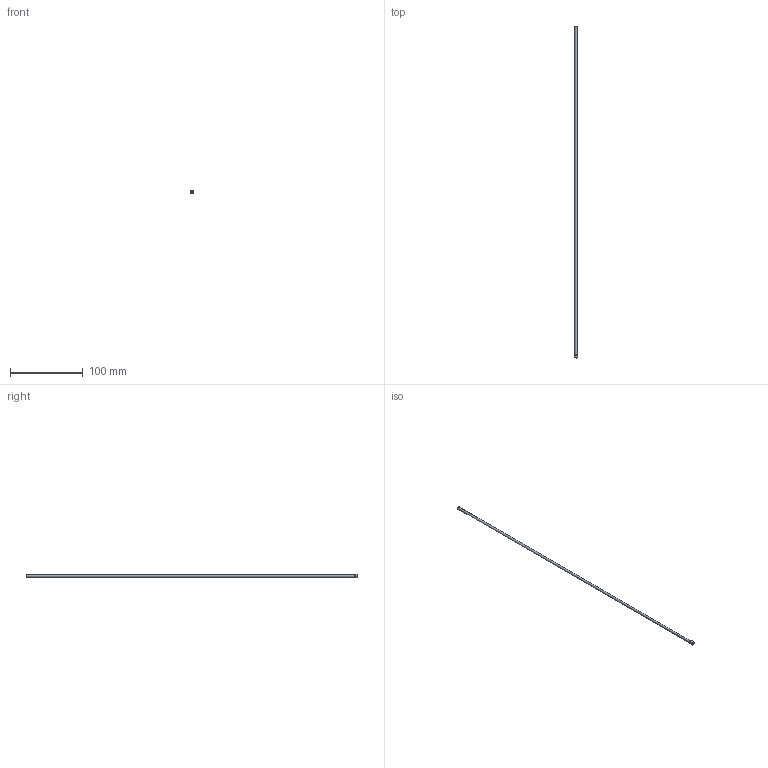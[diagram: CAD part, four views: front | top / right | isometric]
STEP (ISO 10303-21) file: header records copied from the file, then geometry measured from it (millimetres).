
FILE_DESCRIPTION(/* description */ (''),/* implementation_level */ '2;1');
FILE_NAME(/* name */ 'C:/Users/drich/Desktop/HF125T-18 v1.step',/* time_stamp */ '2019-12-30T13:29:49-06:00',/* author */ (''),/* organization */ (''),/* preprocessor_version */ 'ST-DEVELOPER v18',/* originating_system */ 'Autodesk Translation Framework v8.12.0.6',/* authorisation */ '');
FILE_SCHEMA (('AUTOMOTIVE_DESIGN { 1 0 10303 214 3 1 1 }'));
Length unit declared in the file: inch
Products named in the file (1): HF125T-18
Bounding box: 4.8 x 457.2 x 4.8 mm (x, y, z)
Volume: 917.3 mm3; surface area: 8582.5 mm2
Topology: 1 solids, 1 shells, 11 faces, 27 edges, 20 vertices
Faces by surface type: cylinder 4, plane 4, torus 2, cone 1
Full cylindrical faces by diameter (mm): 2.769 x1, 3.175 x1, 4.727 x1, 4.801 x1
Entity records: 390 total; most frequent: DIRECTION 73, CARTESIAN_POINT 59, ORIENTED_EDGE 54, AXIS2_PLACEMENT_3D 34, EDGE_CURVE 27, CIRCLE 22, VERTEX_POINT 20, EDGE_LOOP 15
